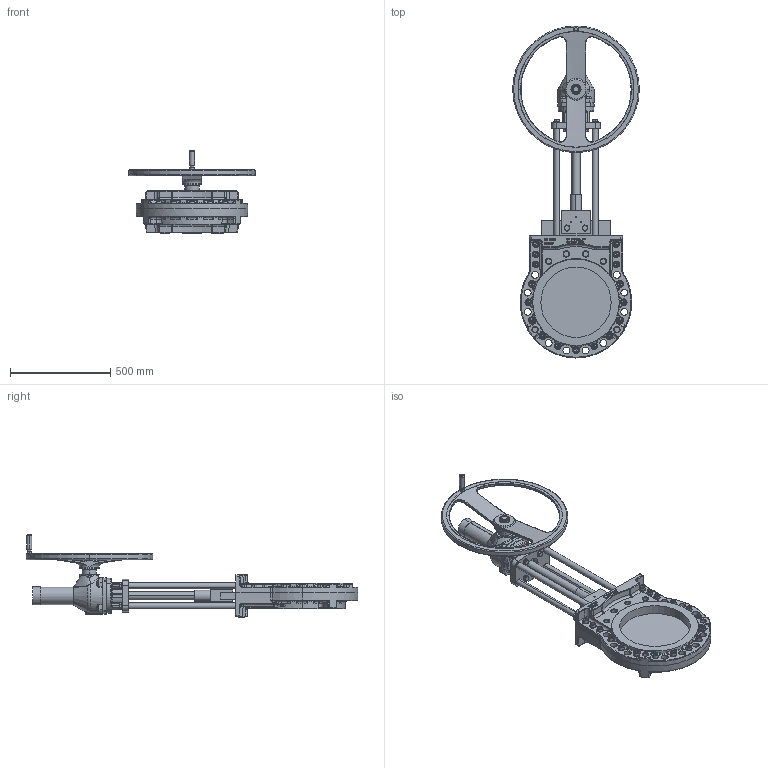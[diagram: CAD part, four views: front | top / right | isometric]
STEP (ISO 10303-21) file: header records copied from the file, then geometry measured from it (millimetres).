
FILE_DESCRIPTION (( 'STEP AP214' ), '1' );
FILE_NAME ('MHA DN 350 GK14.6.STEP', '2015-04-28T08:51:53', ( 'admin' ), ( 'Hewlett-Packard Company' ), 'SwSTEP 2.0', 'SolidWorks 2013', '' );
FILE_SCHEMA (( 'AUTOMOTIVE_DESIGN' ));
Length unit declared in the file: millimetre
Products named in the file (1): MHA DN 350 GK14.6
Bounding box: 630 x 1652 x 409.75 mm (x, y, z)
Volume: 34688006.9 mm3; surface area: 2535344 mm2
Topology: 54 solids, 70 shells, 3147 faces, 7567 edges, 4503 vertices
Faces by surface type: plane 1010, cylinder 840, bspline 523, cone 420, torus 344, sphere 10
Entity records: 151673 total; most frequent: CARTESIAN_POINT 46476, ORIENTED_EDGE 14658, DIRECTION 14512, EDGE_CURVE 7329, AXIS2_PLACEMENT_3D 5724, VERTEX_POINT 4503, EDGE_LOOP 3444, UNCERTAINTY_MEASURE_WITH_UNIT 3201
